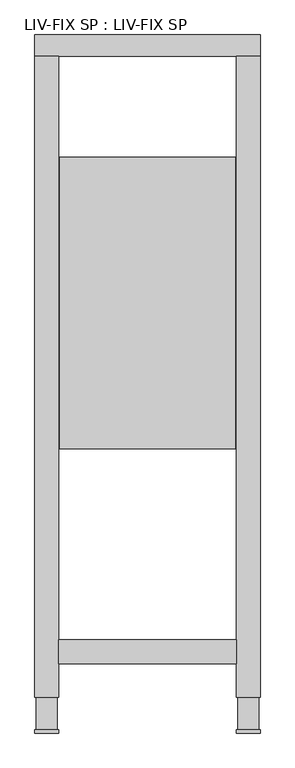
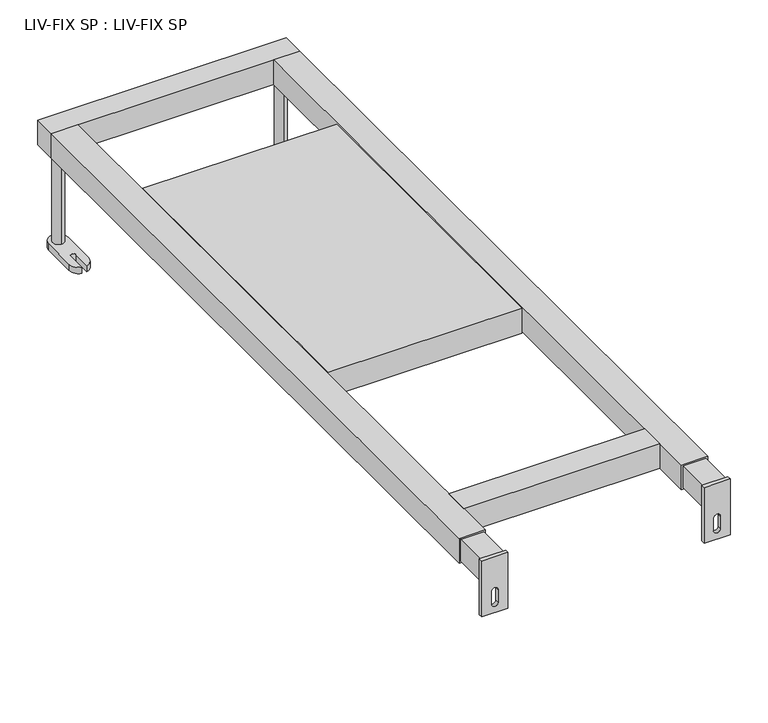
"""IFC4 building model written with IfcOpenShell, lengths in millimetres: flow terminal geometry, LIV-FIX SP : LIV-FIX SP."""

from ifc_helpers import new_model, si_unit, point, frame, frame_2d, origin, origin_with_axes, place, context, project, spatial, polyline, circle_curve, trimmed, segment, composite_curve, outline, extrude, source, transform, mapped, element, save


def liv_fix_sp_liv_fix_sp_73bd4316(model_context):
    return source(origin(), model_context, "Body", "SweptSolid", [
        extrude(outline(polyline([(148.0, 970.0), (148.0, 479.0), (-148.0, 479.0), (-148.0, 970.0), (148.0, 970.0)])), frame((0.0, 0.0, 160.0), z_axis=(0.0, 0.0, 1.0), x_axis=(1.0, 0.0, 0.0)), (0.0, 0.0, 1.0), 40.0),
        extrude(outline(composite_curve([segment(trimmed(circle_curve(frame_2d((-170.0, 1156.0)), 8.75), [point((-170.0, 1147.25))], [point((-170.0, 1164.75))], False, "CARTESIAN"), True, "CONTINUOUS"), segment(trimmed(circle_curve(frame_2d((-170.0, 1156.0)), 8.75), [point((-170.0, 1164.75))], [point((-170.0, 1147.25))], False, "CARTESIAN"), True, "CONTINUOUS")], self_intersect=False)), frame((0.0, 0.0, 10.0), z_axis=(0.0, 0.0, 1.0), x_axis=(1.0, 0.0, 0.0)), (0.0, 0.0, 1.0), 150.0),
        extrude(outline(composite_curve([segment(trimmed(circle_curve(frame_2d((170.0, 1156.0)), 8.75), [point((170.0, 1147.25))], [point((170.0, 1164.75))], False, "CARTESIAN"), True, "CONTINUOUS"), segment(trimmed(circle_curve(frame_2d((170.0, 1156.0)), 8.75), [point((170.0, 1164.75))], [point((170.0, 1147.25))], False, "CARTESIAN"), True, "CONTINUOUS")], self_intersect=False)), frame((0.0, 0.0, 10.0), z_axis=(0.0, 0.0, 1.0), x_axis=(1.0, 0.0, 0.0)), (0.0, 0.0, 1.0), 150.0),
        extrude(outline(composite_curve([segment(trimmed(circle_curve(frame_2d((-170.0, 1156.0)), 15.0), [point((-185.0, 1156.0))], [point((-155.0, 1156.0))], False, "CARTESIAN"), True, "CONTINUOUS"), segment(polyline([(-155.0, 1156.0), (-155.0, 1102.0)]), True, "CONTINUOUS"), segment(trimmed(circle_curve(frame_2d((-170.0, 1102.0)), 15.0), [point((-155.0, 1102.0))], [point((-166.0, 1087.5431677))], False, "CARTESIAN"), True, "CONTINUOUS"), segment(polyline([(-166.0, 1087.5431677), (-166.0, 1116.4568323)]), True, "CONTINUOUS"), segment(trimmed(circle_curve(frame_2d((-170.0, 1116.4568323)), 4.0), [point((-166.0, 1116.4568323))], [point((-174.0, 1116.4568323))], True, "CARTESIAN"), True, "CONTINUOUS"), segment(polyline([(-174.0, 1116.4568323), (-174.0, 1087.5431677)]), True, "CONTINUOUS"), segment(trimmed(circle_curve(frame_2d((-170.0, 1102.0)), 15.0), [point((-174.0, 1087.5431677))], [point((-185.0, 1102.0))], False, "CARTESIAN"), True, "CONTINUOUS"), segment(polyline([(-185.0, 1102.0), (-185.0, 1156.0)]), True, "CONTINUOUS")], self_intersect=False)), origin_with_axes(), (0.0, 0.0, 1.0), 10.0),
        extrude(outline(composite_curve([segment(polyline([(185.0, 1156.0), (185.0, 1102.0)]), True, "CONTINUOUS"), segment(trimmed(circle_curve(frame_2d((170.0, 1102.0)), 15.0), [point((185.0, 1102.0))], [point((174.0, 1087.5431677))], False, "CARTESIAN"), True, "CONTINUOUS"), segment(polyline([(174.0, 1087.5431677), (174.0, 1116.4568323)]), True, "CONTINUOUS"), segment(trimmed(circle_curve(frame_2d((170.0, 1116.4568323)), 4.0), [point((174.0, 1116.4568323))], [point((166.0, 1116.4568323))], True, "CARTESIAN"), True, "CONTINUOUS"), segment(polyline([(166.0, 1116.4568323), (166.0, 1087.5431677)]), True, "CONTINUOUS"), segment(trimmed(circle_curve(frame_2d((170.0, 1102.0)), 15.0), [point((166.0, 1087.5431677))], [point((155.0, 1102.0))], False, "CARTESIAN"), True, "CONTINUOUS"), segment(polyline([(155.0, 1102.0), (155.0, 1156.0)]), True, "CONTINUOUS"), segment(trimmed(circle_curve(frame_2d((170.0, 1156.0)), 15.0), [point((155.0, 1156.0))], [point((185.0, 1156.0))], False, "CARTESIAN"), True, "CONTINUOUS")], self_intersect=False)), origin_with_axes(), (0.0, 0.0, 1.0), 10.0),
        extrude(outline(polyline([(-187.5, 549.0), (-152.5, 549.0), (-152.5, 6.0), (-187.5, 6.0), (-187.5, 549.0)])), frame((0.0, 0.0, 162.5), z_axis=(0.0, 0.0, 1.0), x_axis=(1.0, 0.0, 0.0)), (0.0, 0.0, 1.0), 35.0),
        extrude(outline(polyline([(152.4841074, 549.0), (187.4841074, 549.0), (187.4841074, 6.0), (152.4841074, 6.0), (152.4841074, 549.0)])), frame((0.0, 0.0, 162.5), z_axis=(0.0, 0.0, 1.0), x_axis=(1.0, 0.0, 0.0)), (0.0, 0.0, 1.0), 35.0),
        extrude(outline(polyline([(200.0, 190.0), (200.0, 150.0), (110.0, 150.0), (110.0, 190.0), (200.0, 190.0)]), holes=[composite_curve([segment(trimmed(circle_curve(frame_2d((145.0, 170.0)), 5.0), [point((145.0, 165.0))], [point((145.0, 175.0))], True, "CARTESIAN"), True, "CONTINUOUS"), segment(polyline([(145.0, 175.0), (125.0, 175.0)]), True, "CONTINUOUS"), segment(trimmed(circle_curve(frame_2d((125.0, 170.0)), 5.0), [point((125.0, 175.0))], [point((125.0, 165.0))], True, "CARTESIAN"), True, "CONTINUOUS"), segment(polyline([(125.0, 165.0), (145.0, 165.0)]), True, "CONTINUOUS")], self_intersect=False)]), frame((0.0, 0.0, 0.0), z_axis=(0.0, 1.0, 0.0), x_axis=(0.0, 0.0, 1.0)), (0.0, 0.0, 1.0), 6.0),
        extrude(outline(polyline([(200.0, -150.0), (200.0, -190.0), (110.0, -190.0), (110.0, -150.0), (200.0, -150.0)]), holes=[composite_curve([segment(trimmed(circle_curve(frame_2d((145.0, -170.0)), 5.0), [point((145.0, -175.0))], [point((145.0, -165.0))], True, "CARTESIAN"), True, "CONTINUOUS"), segment(polyline([(145.0, -165.0), (125.0, -165.0)]), True, "CONTINUOUS"), segment(trimmed(circle_curve(frame_2d((125.0, -170.0)), 5.0), [point((125.0, -165.0))], [point((125.0, -175.0))], True, "CARTESIAN"), True, "CONTINUOUS"), segment(polyline([(125.0, -175.0), (145.0, -175.0)]), True, "CONTINUOUS")], self_intersect=False)]), frame((0.0, 0.0, 0.0), z_axis=(0.0, 1.0, 0.0), x_axis=(0.0, 0.0, 1.0)), (0.0, 0.0, 1.0), 6.0),
        extrude(outline(polyline([(150.0, 157.0), (150.0, 117.0), (-150.0, 117.0), (-150.0, 157.0), (150.0, 157.0)])), frame((0.0, 0.0, 160.0), z_axis=(0.0, 0.0, 1.0), x_axis=(1.0, 0.0, 0.0)), (0.0, 0.0, 1.0), 40.0),
        extrude(outline(polyline([(-150.0, 60.0), (-190.0, 60.0), (-190.0, 1140.0), (-150.0, 1140.0), (-150.0, 60.0)])), frame((0.0, 0.0, 160.0), z_axis=(0.0, 0.0, 1.0), x_axis=(1.0, 0.0, 0.0)), (0.0, 0.0, 1.0), 40.0),
        extrude(outline(polyline([(190.0, 60.0), (150.0, 60.0), (150.0, 1140.0), (190.0, 1140.0), (190.0, 60.0)])), frame((0.0, 0.0, 160.0), z_axis=(0.0, 0.0, 1.0), x_axis=(1.0, 0.0, 0.0)), (0.0, 0.0, 1.0), 40.0),
        extrude(outline(polyline([(190.0, 1176.0), (190.0, 1140.0), (-190.0, 1140.0), (-190.0, 1176.0), (190.0, 1176.0)])), frame((0.0, 0.0, 160.0), z_axis=(0.0, 0.0, 1.0), x_axis=(1.0, 0.0, 0.0)), (0.0, 0.0, 1.0), 40.0),
    ])


if __name__ == "__main__":
    model = new_model("IFC4")
    model_context = context("Model", 3, world=origin())
    ifc_project = project(units=[si_unit("LENGTHUNIT", "METRE", prefix="MILLI")], contexts=[model_context])
    site = spatial("IfcSite", under=ifc_project)
    building = spatial("IfcBuilding", under=site)
    placement = place(None, origin())
    liv_fix_sp_liv_fix_sp_shape = liv_fix_sp_liv_fix_sp_73bd4316(model_context)
    element("IfcFlowTerminal", 1, ObjectType="LIV-FIX SP : LIV-FIX SP", at=placement, inside=building, context=model_context, shape_type="MappedRepresentation", body=[
        mapped(liv_fix_sp_liv_fix_sp_shape, transform((0.0, 0.0, 0.0), x_axis=(1.0, 0.0, 0.0), y_axis=(0.0, 1.0, 0.0), z_axis=(0.0, 0.0, 1.0))),
    ])
    save(model, "model.ifc")
